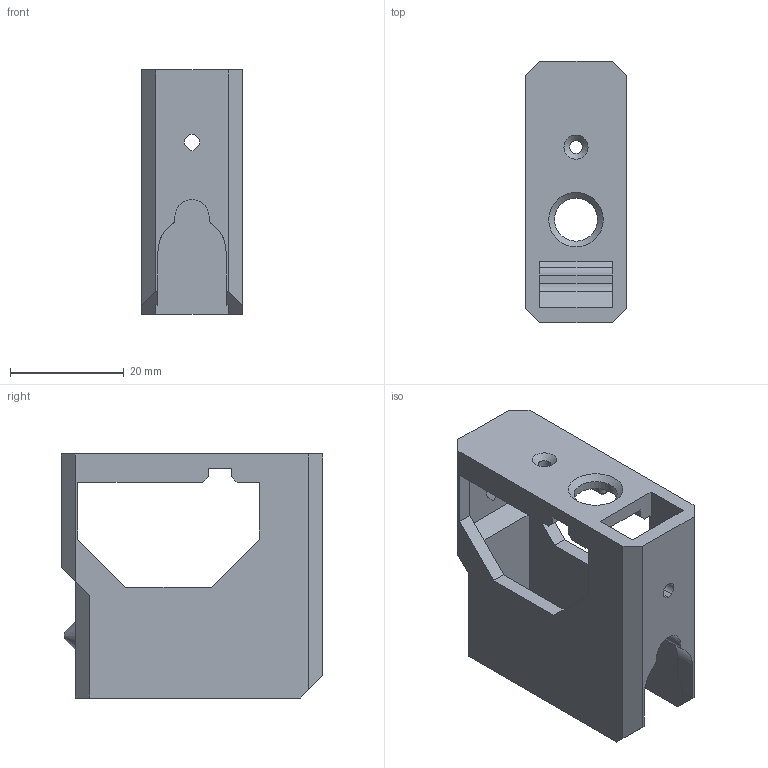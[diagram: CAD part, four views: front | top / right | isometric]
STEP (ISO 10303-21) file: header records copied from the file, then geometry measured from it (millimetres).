
FILE_DESCRIPTION(/* description */ (''),/* implementation_level */ '2;1');
FILE_NAME(/* name */ 'UpperLeg.step',/* time_stamp */ '2025-06-14T15:55:56+05:30',/* author */ (''),/* organization */ (''),/* preprocessor_version */ 'ST-DEVELOPER v20.1',/* originating_system */ 'Autodesk Translation Framework v14.10.0.0',/* authorisation */ '');
FILE_SCHEMA (('AUTOMOTIVE_DESIGN { 1 0 10303 214 3 1 1 }'));
Length unit declared in the file: millimetre
Products named in the file (1): UpperLeg
Bounding box: 17.7 x 46.1 x 43 mm (x, y, z)
Volume: 11100.6 mm3; surface area: 8911.9 mm2
Topology: 1 solids, 1 shells, 111 faces, 314 edges, 199 vertices
Faces by surface type: plane 84, cylinder 15, cone 10, bspline 2
Full cylindrical faces by diameter (mm): 2.25 x1, 7.6 x1
Entity records: 3591 total; most frequent: CARTESIAN_POINT 689, ORIENTED_EDGE 620, DIRECTION 559, EDGE_CURVE 310, LINE 265, VECTOR 265, VERTEX_POINT 199, AXIS2_PLACEMENT_3D 147
